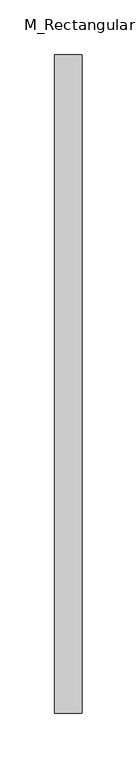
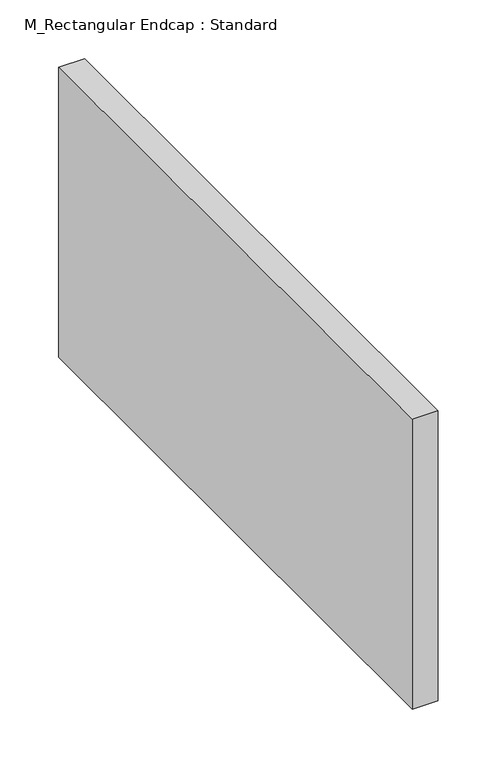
"""IFC4 building model written with IfcOpenShell, lengths in millimetres: duct fitting geometry, M_Rectangular Endcap : Standard."""

from ifc_helpers import new_model, si_unit, frame, origin, place, context, project, spatial, polyline, outline, extrude, source, transform, mapped, element, save


def m_rectangular_endcap_standard_0f0ff112(model_context):
    return source(origin(), model_context, "Body", "SweptSolid", [
        extrude(outline(polyline([(0.0, -300.0), (0.0, 300.0), (25.0, 300.0), (25.0, -300.0), (0.0, -300.0)])), frame((0.0, 0.0, -150.0), z_axis=(0.0, 0.0, 1.0), x_axis=(1.0, 0.0, 0.0)), (0.0, 0.0, 1.0), 300.0),
    ])


if __name__ == "__main__":
    model = new_model("IFC4")
    model_context = context("Model", 3, world=origin())
    ifc_project = project(units=[si_unit("LENGTHUNIT", "METRE", prefix="MILLI")], contexts=[model_context])
    site = spatial("IfcSite", under=ifc_project)
    building = spatial("IfcBuilding", under=site)
    placement = place(None, origin())
    m_rectangular_endcap_standard_shape = m_rectangular_endcap_standard_0f0ff112(model_context)
    element("IfcDuctFitting", 1, ObjectType="M_Rectangular Endcap : Standard", at=placement, inside=building, context=model_context, shape_type="MappedRepresentation", body=[
        mapped(m_rectangular_endcap_standard_shape, transform((0.0, 0.0, 0.0), x_axis=(1.0, 0.0, 0.0), y_axis=(0.0, 1.0, 0.0), z_axis=(0.0, 0.0, 1.0))),
    ])
    save(model, "model.ifc")
